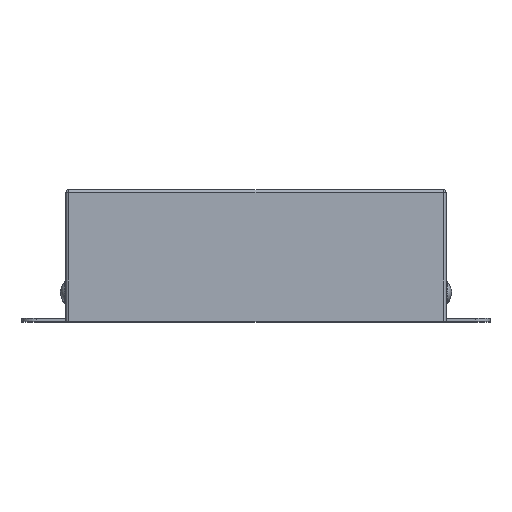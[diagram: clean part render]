
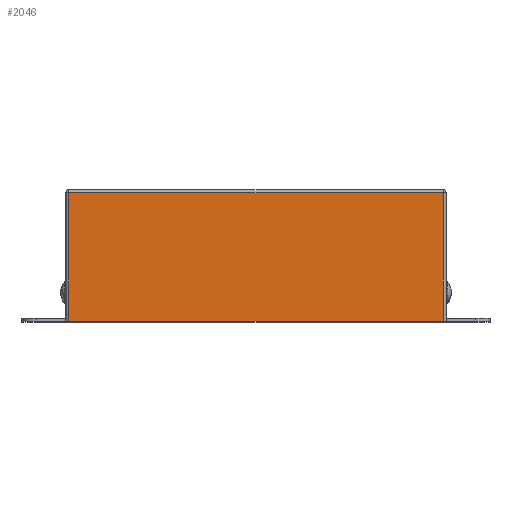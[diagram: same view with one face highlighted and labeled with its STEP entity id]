
A CAD part, top view. The second image highlights one B-rep face of the part: STEP entity #2046.
In plain terms, the highlighted planar face has unit normal (0, 0, 1).
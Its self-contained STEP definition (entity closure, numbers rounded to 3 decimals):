
#49 = DIRECTION ( 'NONE',  ( 0., 1., 0. ) ) ;
#169 = ORIENTED_EDGE ( 'NONE', *, *, #1889, .T. ) ;
#203 = LINE ( 'NONE', #1618, #2103 ) ;
#389 = AXIS2_PLACEMENT_3D ( 'NONE', #1059, #1831, #1293 ) ;
#466 = CARTESIAN_POINT ( 'NONE',  ( -65., 44., 115. ) ) ;
#521 = PLANE ( 'NONE',  #389 ) ;
#622 = VERTEX_POINT ( 'NONE', #1345 ) ;
#636 = EDGE_CURVE ( 'NONE', #2488, #2463, #203, .T. ) ;
#740 = CARTESIAN_POINT ( 'NONE',  ( -64., 44., 115. ) ) ;
#751 = CARTESIAN_POINT ( 'NONE',  ( -64., 45., 115. ) ) ;
#802 = LINE ( 'NONE', #1192, #1190 ) ;
#845 = EDGE_LOOP ( 'NONE', ( #1538, #2480, #1104, #169 ) ) ;
#856 = CARTESIAN_POINT ( 'NONE',  ( 64., 0., 115. ) ) ;
#858 = VECTOR ( 'NONE', #1266, 1000. ) ;
#1059 = CARTESIAN_POINT ( 'NONE',  ( -65., 45., 115. ) ) ;
#1104 = ORIENTED_EDGE ( 'NONE', *, *, #2096, .T. ) ;
#1190 = VECTOR ( 'NONE', #49, 1000. ) ;
#1192 = CARTESIAN_POINT ( 'NONE',  ( 64., 45., 115. ) ) ;
#1266 = DIRECTION ( 'NONE',  ( -1., 0., 0. ) ) ;
#1278 = FACE_OUTER_BOUND ( 'NONE', #845, .T. ) ;
#1293 = DIRECTION ( 'NONE',  ( 1., 0., 0. ) ) ;
#1345 = CARTESIAN_POINT ( 'NONE',  ( 64., 44., 115. ) ) ;
#1369 = VECTOR ( 'NONE', #1702, 1000. ) ;
#1435 = EDGE_CURVE ( 'NONE', #2488, #622, #802, .T. ) ;
#1538 = ORIENTED_EDGE ( 'NONE', *, *, #636, .F. ) ;
#1543 = LINE ( 'NONE', #751, #1369 ) ;
#1598 = CARTESIAN_POINT ( 'NONE',  ( -64., 0., 115. ) ) ;
#1618 = CARTESIAN_POINT ( 'NONE',  ( -65., 0., 115. ) ) ;
#1702 = DIRECTION ( 'NONE',  ( 0., -1., 0. ) ) ;
#1831 = DIRECTION ( 'NONE',  ( 0., 0., 1. ) ) ;
#1856 = VERTEX_POINT ( 'NONE', #740 ) ;
#1889 = EDGE_CURVE ( 'NONE', #1856, #2463, #1543, .T. ) ;
#2000 = DIRECTION ( 'NONE',  ( -1., 0., 0. ) ) ;
#2046 = ADVANCED_FACE ( 'NONE', ( #1278 ), #521, .T. ) ;
#2096 = EDGE_CURVE ( 'NONE', #622, #1856, #2273, .T. ) ;
#2103 = VECTOR ( 'NONE', #2000, 1000. ) ;
#2273 = LINE ( 'NONE', #466, #858 ) ;
#2463 = VERTEX_POINT ( 'NONE', #1598 ) ;
#2480 = ORIENTED_EDGE ( 'NONE', *, *, #1435, .T. ) ;
#2488 = VERTEX_POINT ( 'NONE', #856 ) ;
